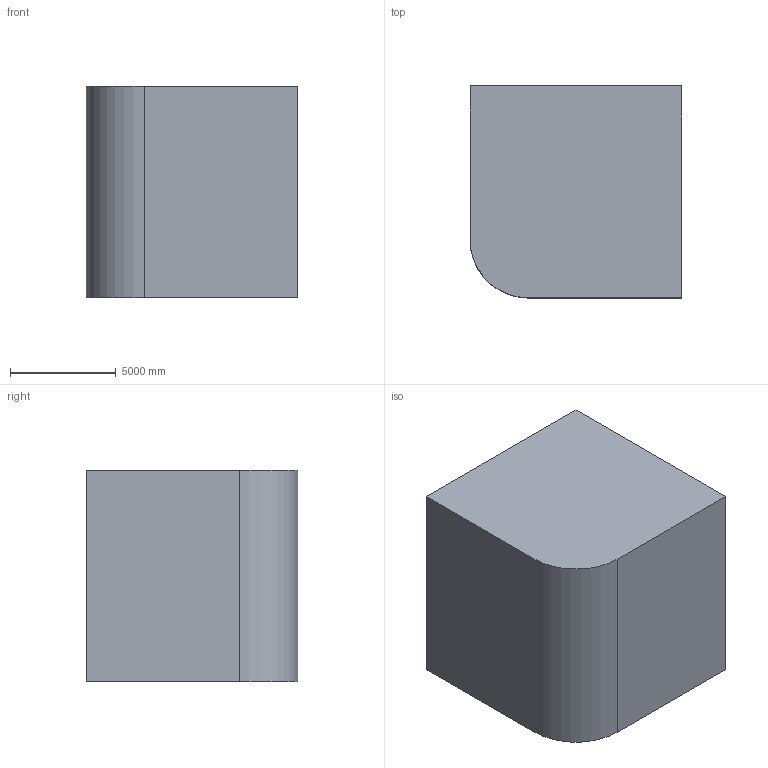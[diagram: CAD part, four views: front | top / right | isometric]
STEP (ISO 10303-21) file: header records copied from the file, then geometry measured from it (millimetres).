
FILE_DESCRIPTION (( 'STEP AP203' ), '1' );
FILE_NAME ('1214.STEP', '2022-08-18T13:13:18', ( 'user' ), ( '' ), 'SwSTEP 2.0', 'SolidWorks 2021', '' );
FILE_SCHEMA (( 'CONFIG_CONTROL_DESIGN' ));
Length unit declared in the file: centimetre
Products named in the file (1): 1214
Bounding box: 10000 x 10000 x 10000 mm (x, y, z)
Volume: 929551864825.5 mm3; surface area: 684059989.9 mm2
Topology: 1 solids, 1 shells, 18 faces, 42 edges, 28 vertices
Faces by surface type: plane 17, cylinder 1
Entity records: 585 total; most frequent: CARTESIAN_POINT 89, ORIENTED_EDGE 84, DIRECTION 82, EDGE_CURVE 42, VECTOR 40, LINE 40, VERTEX_POINT 28, AXIS2_PLACEMENT_3D 21
